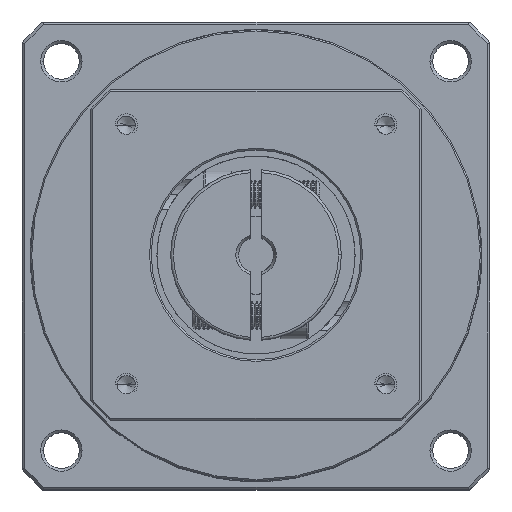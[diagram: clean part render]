
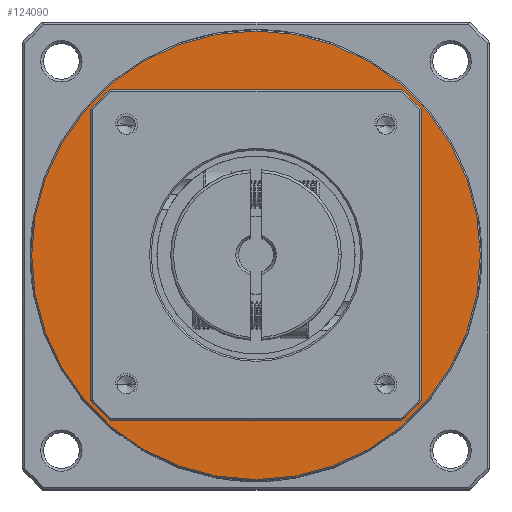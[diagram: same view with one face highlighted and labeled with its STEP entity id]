
A CAD part, top view. The second image highlights one B-rep face of the part: STEP entity #124090.
In plain terms, the highlighted planar face has unit normal (0, 0, 1).
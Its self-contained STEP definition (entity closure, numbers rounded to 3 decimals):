
#2193 = AXIS2_PLACEMENT_3D ( 'NONE', #99272, #22187, #69968 ) ;
#6035 = CIRCLE ( 'NONE', #117735, 40.75 ) ;
#6708 = EDGE_LOOP ( 'NONE', ( #84052, #83574 ) ) ;
#7998 = FACE_BOUND ( 'NONE', #6708, .T. ) ;
#8430 = CARTESIAN_POINT ( 'NONE',  ( -65.588, -4.071, 157.15 ) ) ;
#10244 = VERTEX_POINT ( 'NONE', #89801 ) ;
#16173 = CARTESIAN_POINT ( 'NONE',  ( -35.588, -4.071, 157.15 ) ) ;
#18380 = CARTESIAN_POINT ( 'NONE',  ( -5.588, -4.071, 157.15 ) ) ;
#19297 = CARTESIAN_POINT ( 'NONE',  ( 5.162, -4.071, 157.15 ) ) ;
#22187 = DIRECTION ( 'NONE',  ( 0., 0., 1. ) ) ;
#25960 = DIRECTION ( 'NONE',  ( 1., 0., 0. ) ) ;
#29195 = VERTEX_POINT ( 'NONE', #19297 ) ;
#31708 = VERTEX_POINT ( 'NONE', #8430 ) ;
#36176 = EDGE_CURVE ( 'NONE', #29195, #10244, #99140, .T. ) ;
#36433 = AXIS2_PLACEMENT_3D ( 'NONE', #16173, #85151, #25960 ) ;
#37008 = AXIS2_PLACEMENT_3D ( 'NONE', #71917, #119195, #40865 ) ;
#40865 = DIRECTION ( 'NONE',  ( 1., 0., 0. ) ) ;
#41610 = FACE_OUTER_BOUND ( 'NONE', #52630, .T. ) ;
#44218 = ORIENTED_EDGE ( 'NONE', *, *, #122933, .T. ) ;
#52630 = EDGE_LOOP ( 'NONE', ( #44218, #77560 ) ) ;
#56139 = DIRECTION ( 'NONE',  ( 0., 0., 1. ) ) ;
#57610 = DIRECTION ( 'NONE',  ( 0., 0., 1. ) ) ;
#66607 = VERTEX_POINT ( 'NONE', #18380 ) ;
#69033 = CARTESIAN_POINT ( 'NONE',  ( -35.588, -4.071, 157.15 ) ) ;
#69968 = DIRECTION ( 'NONE',  ( 1., 0., 0. ) ) ;
#71917 = CARTESIAN_POINT ( 'NONE',  ( -35.588, -4.071, 157.15 ) ) ;
#77560 = ORIENTED_EDGE ( 'NONE', *, *, #36176, .T. ) ;
#77764 = CIRCLE ( 'NONE', #111714, 30. ) ;
#83574 = ORIENTED_EDGE ( 'NONE', *, *, #92476, .F. ) ;
#84052 = ORIENTED_EDGE ( 'NONE', *, *, #104865, .F. ) ;
#85151 = DIRECTION ( 'NONE',  ( 0., 0., 1. ) ) ;
#89801 = CARTESIAN_POINT ( 'NONE',  ( -76.338, -4.071, 157.15 ) ) ;
#92476 = EDGE_CURVE ( 'NONE', #66607, #31708, #77764, .T. ) ;
#99140 = CIRCLE ( 'NONE', #2193, 40.75 ) ;
#99272 = CARTESIAN_POINT ( 'NONE',  ( -35.588, -4.071, 157.15 ) ) ;
#99532 = CIRCLE ( 'NONE', #37008, 30. ) ;
#104865 = EDGE_CURVE ( 'NONE', #31708, #66607, #99532, .T. ) ;
#111714 = AXIS2_PLACEMENT_3D ( 'NONE', #69033, #57610, #125688 ) ;
#112801 = PLANE ( 'NONE',  #36433 ) ;
#114395 = CARTESIAN_POINT ( 'NONE',  ( -35.588, -4.071, 157.15 ) ) ;
#115208 = DIRECTION ( 'NONE',  ( 1., 0., 0. ) ) ;
#117735 = AXIS2_PLACEMENT_3D ( 'NONE', #114395, #56139, #115208 ) ;
#119195 = DIRECTION ( 'NONE',  ( 0., 0., 1. ) ) ;
#122933 = EDGE_CURVE ( 'NONE', #10244, #29195, #6035, .T. ) ;
#124090 = ADVANCED_FACE ( 'NONE', ( #7998, #41610 ), #112801, .T. ) ;
#125688 = DIRECTION ( 'NONE',  ( 1., 0., 0. ) ) ;
